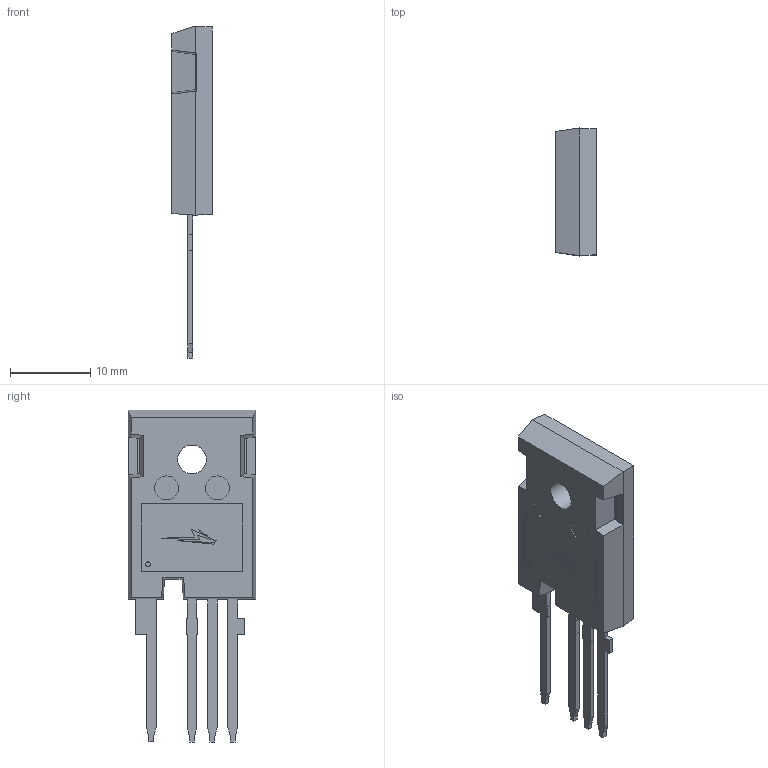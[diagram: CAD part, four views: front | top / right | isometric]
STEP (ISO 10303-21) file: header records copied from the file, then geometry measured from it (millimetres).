
FILE_DESCRIPTION(/* description */ (''),/* implementation_level */ '2;1');
FILE_NAME(/* name */ 'D:\Upverter 3D models (local)\Wolfspeed\May 2023\C3M0025065K\C3M0025065K rev2.stp',/* time_stamp */ '2023-05-15T22:43:12-04:00',/* author */ ('rabri'),/* organization */ (''),/* preprocessor_version */ 'ST-DEVELOPER v18',/* originating_system */ 'Autodesk Inventor 2020',/* authorisation */ '');
FILE_SCHEMA (('AUTOMOTIVE_DESIGN { 1 0 10303 214 3 1 1 }'));
Length unit declared in the file: millimetre
Products named in the file (5): C3M0025065K; TO-247-4L_LF; TO-247-4L_EMC; terminal; logo
Assembly tree (4 placements, depth 2):
  C3M0025065K
    TO-247-4L_LF
    TO-247-4L_EMC
    terminal
    logo
Bounding box: 5.02 x 15.94 x 41.42 mm (x, y, z)
Volume: 1793.4 mm3; surface area: 2279.3 mm2
Topology: 8 solids, 8 shells, 196 faces, 519 edges, 340 vertices
Faces by surface type: plane 186, cylinder 9, torus 1
Full cylindrical faces by diameter (mm): 0.601 x1, 3.58 x1, 7.18 x2
Entity records: 6218 total; most frequent: CARTESIAN_POINT 1064, ORIENTED_EDGE 1038, DIRECTION 953, EDGE_CURVE 519, LINE 495, VECTOR 495, VERTEX_POINT 340, AXIS2_PLACEMENT_3D 229
